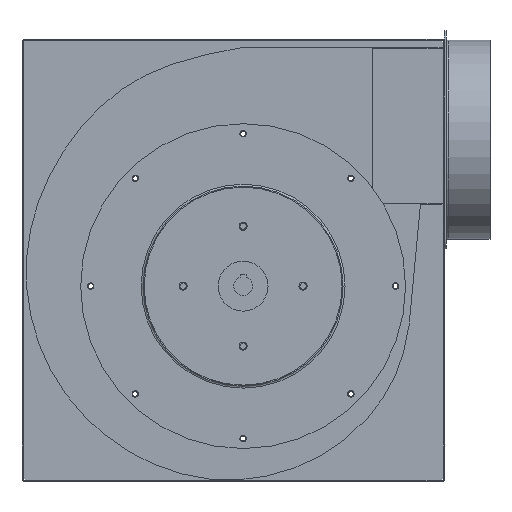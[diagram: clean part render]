
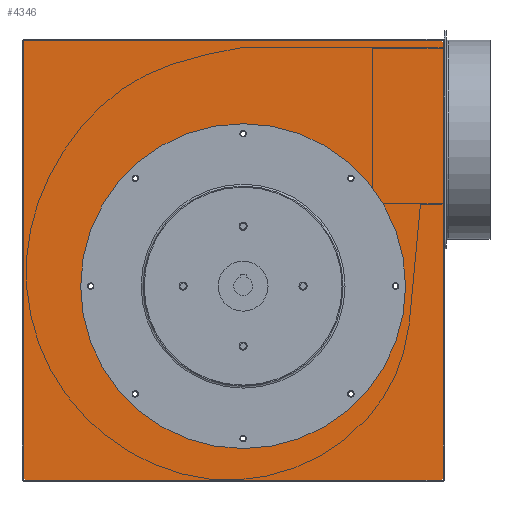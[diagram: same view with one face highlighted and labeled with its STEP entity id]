
A CAD part, front view. The second image highlights one B-rep face of the part: STEP entity #4346.
In plain terms, the highlighted planar face has unit normal (0, -1, 0) as drawn and (1, 0, 0) by its records, which use the part's own axes.
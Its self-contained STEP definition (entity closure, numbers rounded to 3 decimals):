
#73=LINE('',#6620,#357);
#74=LINE('',#6623,#358);
#75=LINE('',#6625,#359);
#76=LINE('',#6627,#360);
#77=LINE('',#6629,#361);
#78=LINE('',#6631,#362);
#79=LINE('',#6633,#363);
#80=LINE('',#6635,#364);
#81=LINE('',#6637,#365);
#82=LINE('',#6639,#366);
#83=LINE('',#6641,#367);
#84=LINE('',#6643,#368);
#357=VECTOR('',#5271,1000.);
#358=VECTOR('',#5272,1000.);
#359=VECTOR('',#5273,1000.);
#360=VECTOR('',#5274,1000.);
#361=VECTOR('',#5275,1000.);
#362=VECTOR('',#5276,1000.);
#363=VECTOR('',#5277,1000.);
#364=VECTOR('',#5278,1000.);
#365=VECTOR('',#5279,1000.);
#366=VECTOR('',#5280,1000.);
#367=VECTOR('',#5281,1000.);
#368=VECTOR('',#5282,1000.);
#641=PLANE('',#4706);
#783=ORIENTED_EDGE('',*,*,#1875,.T.);
#784=ORIENTED_EDGE('',*,*,#1877,.T.);
#785=ORIENTED_EDGE('',*,*,#1879,.T.);
#786=ORIENTED_EDGE('',*,*,#1881,.T.);
#787=ORIENTED_EDGE('',*,*,#1883,.T.);
#788=ORIENTED_EDGE('',*,*,#1885,.T.);
#789=ORIENTED_EDGE('',*,*,#1887,.T.);
#790=ORIENTED_EDGE('',*,*,#1889,.T.);
#791=ORIENTED_EDGE('',*,*,#1890,.F.);
#792=ORIENTED_EDGE('',*,*,#1891,.F.);
#793=ORIENTED_EDGE('',*,*,#1892,.F.);
#794=ORIENTED_EDGE('',*,*,#1893,.T.);
#795=ORIENTED_EDGE('',*,*,#1894,.F.);
#796=ORIENTED_EDGE('',*,*,#1895,.F.);
#797=ORIENTED_EDGE('',*,*,#1896,.F.);
#798=ORIENTED_EDGE('',*,*,#1897,.F.);
#799=ORIENTED_EDGE('',*,*,#1898,.F.);
#800=ORIENTED_EDGE('',*,*,#1899,.T.);
#801=ORIENTED_EDGE('',*,*,#1900,.F.);
#802=ORIENTED_EDGE('',*,*,#1901,.F.);
#803=ORIENTED_EDGE('',*,*,#1902,.F.);
#1875=EDGE_CURVE('',#2428,#2428,#2845,.T.);
#1877=EDGE_CURVE('',#2430,#2430,#2847,.T.);
#1879=EDGE_CURVE('',#2432,#2432,#2849,.T.);
#1881=EDGE_CURVE('',#2434,#2434,#2851,.T.);
#1883=EDGE_CURVE('',#2436,#2436,#2853,.T.);
#1885=EDGE_CURVE('',#2438,#2438,#2855,.T.);
#1887=EDGE_CURVE('',#2440,#2440,#2857,.T.);
#1889=EDGE_CURVE('',#2442,#2442,#2859,.T.);
#1890=EDGE_CURVE('',#2443,#2443,#2860,.T.);
#1891=EDGE_CURVE('',#2444,#2445,#73,.T.);
#1892=EDGE_CURVE('',#2446,#2444,#74,.T.);
#1893=EDGE_CURVE('',#2446,#2447,#75,.T.);
#1894=EDGE_CURVE('',#2448,#2447,#76,.T.);
#1895=EDGE_CURVE('',#2449,#2448,#77,.T.);
#1896=EDGE_CURVE('',#2450,#2449,#78,.T.);
#1897=EDGE_CURVE('',#2451,#2450,#79,.T.);
#1898=EDGE_CURVE('',#2452,#2451,#80,.T.);
#1899=EDGE_CURVE('',#2452,#2453,#81,.T.);
#1900=EDGE_CURVE('',#2454,#2453,#82,.T.);
#1901=EDGE_CURVE('',#2455,#2454,#83,.T.);
#1902=EDGE_CURVE('',#2445,#2455,#84,.T.);
#2428=VERTEX_POINT('',#6582);
#2430=VERTEX_POINT('',#6587);
#2432=VERTEX_POINT('',#6592);
#2434=VERTEX_POINT('',#6597);
#2436=VERTEX_POINT('',#6602);
#2438=VERTEX_POINT('',#6607);
#2440=VERTEX_POINT('',#6612);
#2442=VERTEX_POINT('',#6617);
#2443=VERTEX_POINT('',#6619);
#2444=VERTEX_POINT('',#6621);
#2445=VERTEX_POINT('',#6622);
#2446=VERTEX_POINT('',#6624);
#2447=VERTEX_POINT('',#6626);
#2448=VERTEX_POINT('',#6628);
#2449=VERTEX_POINT('',#6630);
#2450=VERTEX_POINT('',#6632);
#2451=VERTEX_POINT('',#6634);
#2452=VERTEX_POINT('',#6636);
#2453=VERTEX_POINT('',#6638);
#2454=VERTEX_POINT('',#6640);
#2455=VERTEX_POINT('',#6642);
#2845=CIRCLE('',#4686,3.25);
#2847=CIRCLE('',#4689,3.25);
#2849=CIRCLE('',#4692,3.25);
#2851=CIRCLE('',#4695,3.25);
#2853=CIRCLE('',#4698,3.25);
#2855=CIRCLE('',#4701,3.25);
#2857=CIRCLE('',#4704,3.25);
#2859=CIRCLE('',#4707,3.25);
#2860=CIRCLE('',#4708,145.);
#3126=EDGE_LOOP('',(#783));
#3127=EDGE_LOOP('',(#784));
#3128=EDGE_LOOP('',(#785));
#3129=EDGE_LOOP('',(#786));
#3130=EDGE_LOOP('',(#787));
#3131=EDGE_LOOP('',(#788));
#3132=EDGE_LOOP('',(#789));
#3133=EDGE_LOOP('',(#790));
#3134=EDGE_LOOP('',(#791));
#3135=EDGE_LOOP('',(#792,#793,#794,#795,#796,#797,#798,#799,#800,#801,#802,
#803));
#3676=FACE_BOUND('',#3126,.T.);
#3677=FACE_BOUND('',#3127,.T.);
#3678=FACE_BOUND('',#3128,.T.);
#3679=FACE_BOUND('',#3129,.T.);
#3680=FACE_BOUND('',#3130,.T.);
#3681=FACE_BOUND('',#3131,.T.);
#3682=FACE_BOUND('',#3132,.T.);
#3683=FACE_BOUND('',#3133,.T.);
#3684=FACE_BOUND('',#3134,.T.);
#3685=FACE_BOUND('',#3135,.T.);
#4346=ADVANCED_FACE('',(#3676,#3677,#3678,#3679,#3680,#3681,#3682,#3683,
#3684,#3685),#641,.T.);
#4686=AXIS2_PLACEMENT_3D('',#6581,#5225,#5226);
#4689=AXIS2_PLACEMENT_3D('',#6586,#5231,#5232);
#4692=AXIS2_PLACEMENT_3D('',#6591,#5237,#5238);
#4695=AXIS2_PLACEMENT_3D('',#6596,#5243,#5244);
#4698=AXIS2_PLACEMENT_3D('',#6601,#5249,#5250);
#4701=AXIS2_PLACEMENT_3D('',#6606,#5255,#5256);
#4704=AXIS2_PLACEMENT_3D('',#6611,#5261,#5262);
#4706=AXIS2_PLACEMENT_3D('',#6615,#5265,#5266);
#4707=AXIS2_PLACEMENT_3D('',#6616,#5267,#5268);
#4708=AXIS2_PLACEMENT_3D('',#6618,#5269,#5270);
#5225=DIRECTION('',(-1.,0.,0.));
#5226=DIRECTION('',(0.,0.707,-0.707));
#5231=DIRECTION('',(-1.,0.,0.));
#5232=DIRECTION('',(0.,0.,-1.));
#5237=DIRECTION('',(-1.,0.,0.));
#5238=DIRECTION('',(0.,-0.707,-0.707));
#5243=DIRECTION('',(-1.,0.,0.));
#5244=DIRECTION('',(0.,-1.,0.));
#5249=DIRECTION('',(-1.,0.,0.));
#5250=DIRECTION('',(0.,-0.707,0.707));
#5255=DIRECTION('',(-1.,0.,0.));
#5256=DIRECTION('',(0.,0.,1.));
#5261=DIRECTION('',(-1.,0.,0.));
#5262=DIRECTION('',(0.,0.707,0.707));
#5265=DIRECTION('',(1.,0.,0.));
#5266=DIRECTION('',(0.,0.,1.));
#5267=DIRECTION('',(-1.,0.,0.));
#5268=DIRECTION('',(0.,1.,0.));
#5269=DIRECTION('',(1.,0.,0.));
#5270=DIRECTION('',(0.,1.,0.));
#5271=DIRECTION('',(0.,0.,-1.));
#5272=DIRECTION('',(0.,-0.707,-0.707));
#5273=DIRECTION('',(0.,0.,1.));
#5274=DIRECTION('',(0.,0.707,-0.707));
#5275=DIRECTION('',(0.,0.,-1.));
#5276=DIRECTION('',(0.,1.,0.));
#5277=DIRECTION('',(0.,0.,1.));
#5278=DIRECTION('',(0.,0.707,0.707));
#5279=DIRECTION('',(0.,0.,-1.));
#5280=DIRECTION('',(0.,-0.707,0.707));
#5281=DIRECTION('',(0.,0.,1.));
#5282=DIRECTION('',(0.,-1.,0.));
#6581=CARTESIAN_POINT('',(435.692,107.834,107.834));
#6582=CARTESIAN_POINT('',(435.692,110.132,105.536));
#6586=CARTESIAN_POINT('',(435.692,152.5,0.));
#6587=CARTESIAN_POINT('',(435.692,152.5,-3.25));
#6591=CARTESIAN_POINT('',(435.692,107.834,-107.834));
#6592=CARTESIAN_POINT('',(435.692,105.536,-110.132));
#6596=CARTESIAN_POINT('',(435.692,0.,-152.5));
#6597=CARTESIAN_POINT('',(435.692,-3.25,-152.5));
#6601=CARTESIAN_POINT('',(435.692,-107.834,-107.834));
#6602=CARTESIAN_POINT('',(435.692,-110.132,-105.536));
#6606=CARTESIAN_POINT('',(435.692,-152.5,0.));
#6607=CARTESIAN_POINT('',(435.692,-152.5,3.25));
#6611=CARTESIAN_POINT('',(435.692,-107.834,107.834));
#6612=CARTESIAN_POINT('',(435.692,-105.536,110.132));
#6615=CARTESIAN_POINT('',(435.692,0.,0.));
#6616=CARTESIAN_POINT('',(435.692,0.,152.5));
#6617=CARTESIAN_POINT('',(435.692,3.25,152.5));
#6618=CARTESIAN_POINT('',(435.692,0.,0.));
#6619=CARTESIAN_POINT('',(435.692,145.,0.));
#6620=CARTESIAN_POINT('',(435.692,198.,-195.2));
#6621=CARTESIAN_POINT('',(435.692,198.,-194.));
#6622=CARTESIAN_POINT('',(435.692,198.,-194.01));
#6623=CARTESIAN_POINT('',(435.692,198.,-194.));
#6624=CARTESIAN_POINT('',(435.692,200.,-192.));
#6625=CARTESIAN_POINT('',(435.692,200.,244.));
#6626=CARTESIAN_POINT('',(435.692,200.,244.));
#6627=CARTESIAN_POINT('',(435.692,198.,246.));
#6628=CARTESIAN_POINT('',(435.692,198.,246.));
#6629=CARTESIAN_POINT('',(435.692,198.,246.));
#6630=CARTESIAN_POINT('',(435.692,198.,246.01));
#6631=CARTESIAN_POINT('',(435.692,-218.,246.01));
#6632=CARTESIAN_POINT('',(435.692,-218.,246.01));
#6633=CARTESIAN_POINT('',(435.692,-218.,246.));
#6634=CARTESIAN_POINT('',(435.692,-218.,246.));
#6635=CARTESIAN_POINT('',(435.692,-218.,246.));
#6636=CARTESIAN_POINT('',(435.692,-220.,244.));
#6637=CARTESIAN_POINT('',(435.692,-220.,-192.));
#6638=CARTESIAN_POINT('',(435.692,-220.,-192.));
#6639=CARTESIAN_POINT('',(435.692,-218.,-194.));
#6640=CARTESIAN_POINT('',(435.692,-218.,-194.));
#6641=CARTESIAN_POINT('',(435.692,-218.,-194.));
#6642=CARTESIAN_POINT('',(435.692,-218.,-194.01));
#6643=CARTESIAN_POINT('',(435.692,198.,-194.01));
